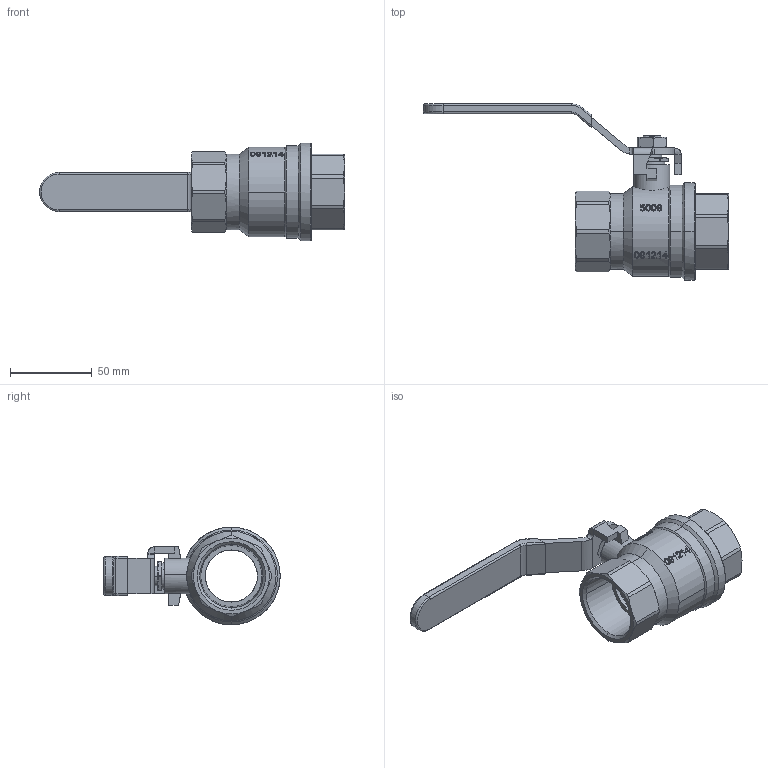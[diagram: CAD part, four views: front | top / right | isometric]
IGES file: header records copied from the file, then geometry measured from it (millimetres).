
Global section: file name: No Iges File Name specified; native system: AutoDesk Inventor R12.0; preprocessor: AutoDesk Inventor Iges Exporter R12.0; date: 20110127.164654; units: millimetre
Bounding box: 187 x 108.11 x 59.8 mm (x, y, z)
Volume: 131241.6 mm3; surface area: 70308.5 mm2
Topology: 7 solids, 7 shells, 1713 faces, 4650 edges, 3113 vertices
Faces by surface type: plane 853, bspline 597, cylinder 90, revolution 81, cone 64, torus 24, sphere 4
